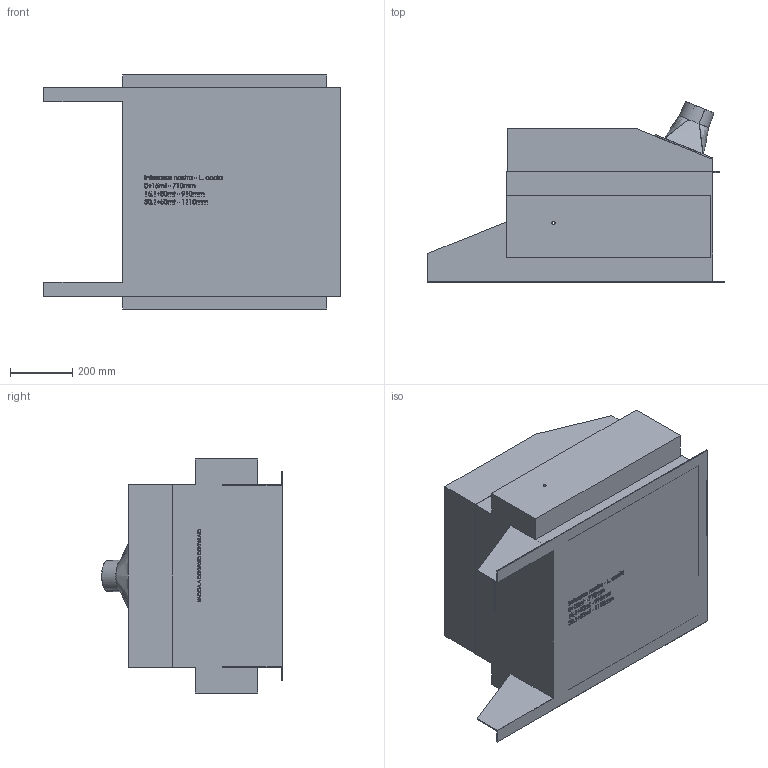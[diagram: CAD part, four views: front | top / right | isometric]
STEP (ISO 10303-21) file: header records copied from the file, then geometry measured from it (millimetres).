
FILE_DESCRIPTION (( 'STEP AP203' ), '1' );
FILE_NAME ('30761.step', '2019-03-14T14:32:24', ( 'PC' ), ( 'Hewlett-Packard Company' ), 'SwSTEP 2.0', 'SolidWorks 2016', '' );
FILE_SCHEMA (( 'CONFIG_CONTROL_DESIGN' ));
Products named in the file (1): 30761
Bounding box: 950 x 579.4 x 750 mm (x, y, z)
Volume: 205740395.8 mm3; surface area: 3670118.3 mm2
Topology: 3 solids, 3 shells, 1165 faces, 3095 edges, 2057 vertices
Faces by surface type: plane 700, bspline 443, cylinder 20, cone 2
Entity records: 64426 total; most frequent: CARTESIAN_POINT 38359, ORIENTED_EDGE 6186, DIRECTION 3689, EDGE_CURVE 3093, LINE 2163, VECTOR 2163, VERTEX_POINT 2057, EDGE_LOOP 1304
